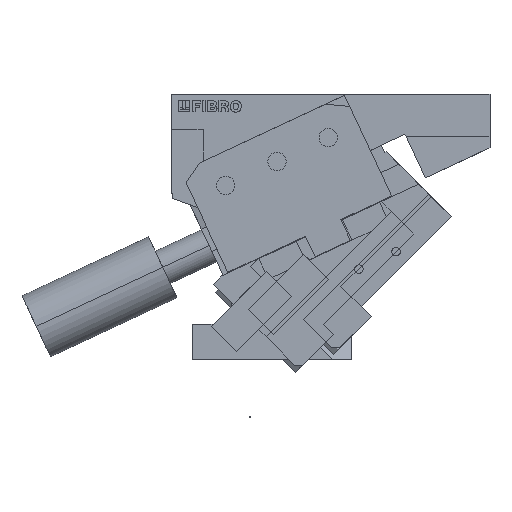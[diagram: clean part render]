
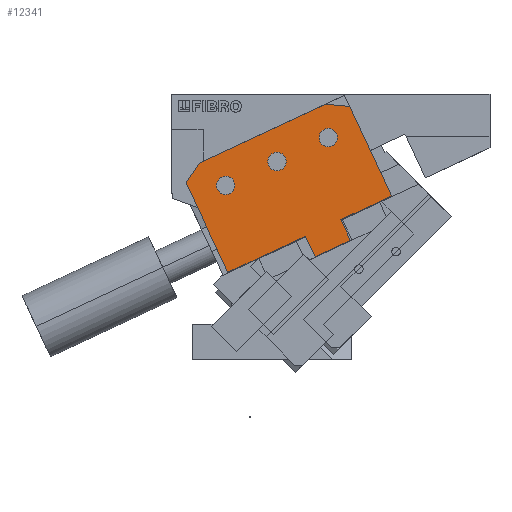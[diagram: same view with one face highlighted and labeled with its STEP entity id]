
A CAD part, front view. The second image highlights one B-rep face of the part: STEP entity #12341.
In plain terms, the highlighted planar face has unit normal (0, -1, 0).
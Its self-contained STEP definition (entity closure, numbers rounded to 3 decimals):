
#12170=AXIS2_PLACEMENT_3D('Circle Axis2P3D',#12168,#12169,$) ;
#12194=AXIS2_PLACEMENT_3D('Circle Axis2P3D',#12192,#12193,$) ;
#12217=AXIS2_PLACEMENT_3D('Plane Axis2P3D',#12214,#12215,#12216) ;
#12303=AXIS2_PLACEMENT_3D('Circle Axis2P3D',#12301,#12302,$) ;
#12312=AXIS2_PLACEMENT_3D('Circle Axis2P3D',#12310,#12311,$) ;
#12325=AXIS2_PLACEMENT_3D('Circle Axis2P3D',#12323,#12324,$) ;
#12334=AXIS2_PLACEMENT_3D('Circle Axis2P3D',#12332,#12333,$) ;
#12165=CARTESIAN_POINT('Vertex',(203.496,-231.,319.281)) ;
#12168=CARTESIAN_POINT('Axis2P3D Location',(191.714,-231.,313.787)) ;
#12172=CARTESIAN_POINT('Vertex',(179.932,-231.,308.293)) ;
#12192=CARTESIAN_POINT('Axis2P3D Location',(191.714,-231.,313.787)) ;
#12214=CARTESIAN_POINT('Axis2P3D Location',(280.949,-231.,231.268)) ;
#12219=CARTESIAN_POINT('Line Origine',(99.044,-231.,319.675)) ;
#12223=CARTESIAN_POINT('Vertex',(187.409,-231.,360.88)) ;
#12225=CARTESIAN_POINT('Vertex',(10.679,-231.,278.469)) ;
#12228=CARTESIAN_POINT('Line Origine',(0.744,-231.,264.281)) ;
#12232=CARTESIAN_POINT('Vertex',(-9.191,-231.,250.093)) ;
#12235=CARTESIAN_POINT('Line Origine',(20.325,-231.,186.797)) ;
#12239=CARTESIAN_POINT('Vertex',(49.84,-231.,123.5)) ;
#12242=CARTESIAN_POINT('Line Origine',(104.672,-231.,149.069)) ;
#12246=CARTESIAN_POINT('Vertex',(159.504,-231.,174.637)) ;
#12249=CARTESIAN_POINT('Line Origine',(166.266,-231.,160.136)) ;
#12253=CARTESIAN_POINT('Vertex',(173.027,-231.,145.635)) ;
#12256=CARTESIAN_POINT('Line Origine',(197.951,-231.,157.257)) ;
#12260=CARTESIAN_POINT('Vertex',(222.874,-231.,168.879)) ;
#12263=CARTESIAN_POINT('Line Origine',(216.113,-231.,183.38)) ;
#12267=CARTESIAN_POINT('Vertex',(209.351,-231.,197.881)) ;
#12270=CARTESIAN_POINT('Line Origine',(245.15,-231.,214.575)) ;
#12274=CARTESIAN_POINT('Vertex',(280.949,-231.,231.268)) ;
#12277=CARTESIAN_POINT('Line Origine',(251.433,-231.,294.564)) ;
#12281=CARTESIAN_POINT('Vertex',(221.918,-231.,357.861)) ;
#12284=CARTESIAN_POINT('Line Origine',(204.663,-231.,359.37)) ;
#12301=CARTESIAN_POINT('Axis2P3D Location',(46.705,-231.,246.168)) ;
#12305=CARTESIAN_POINT('Vertex',(34.923,-231.,240.674)) ;
#12307=CARTESIAN_POINT('Vertex',(58.487,-231.,251.662)) ;
#12310=CARTESIAN_POINT('Axis2P3D Location',(46.705,-231.,246.168)) ;
#12323=CARTESIAN_POINT('Axis2P3D Location',(119.21,-231.,279.978)) ;
#12327=CARTESIAN_POINT('Vertex',(130.992,-231.,285.472)) ;
#12329=CARTESIAN_POINT('Vertex',(107.428,-231.,274.484)) ;
#12332=CARTESIAN_POINT('Axis2P3D Location',(119.21,-231.,279.978)) ;
#12169=DIRECTION('Axis2P3D Direction',(0.,1.,0.)) ;
#12193=DIRECTION('Axis2P3D Direction',(0.,1.,0.)) ;
#12215=DIRECTION('Axis2P3D Direction',(-0.,-1.,0.)) ;
#12216=DIRECTION('Axis2P3D XDirection',(-0.423,0.,0.906)) ;
#12220=DIRECTION('Vector Direction',(-0.906,0.,-0.423)) ;
#12229=DIRECTION('Vector Direction',(0.574,0.,0.819)) ;
#12236=DIRECTION('Vector Direction',(-0.423,0.,0.906)) ;
#12243=DIRECTION('Vector Direction',(-0.906,0.,-0.423)) ;
#12250=DIRECTION('Vector Direction',(0.423,0.,-0.906)) ;
#12257=DIRECTION('Vector Direction',(-0.906,0.,-0.423)) ;
#12264=DIRECTION('Vector Direction',(0.423,0.,-0.906)) ;
#12271=DIRECTION('Vector Direction',(-0.906,0.,-0.423)) ;
#12278=DIRECTION('Vector Direction',(-0.423,0.,0.906)) ;
#12285=DIRECTION('Vector Direction',(0.996,0.,-0.087)) ;
#12302=DIRECTION('Axis2P3D Direction',(-0.,-1.,0.)) ;
#12311=DIRECTION('Axis2P3D Direction',(-0.,-1.,0.)) ;
#12324=DIRECTION('Axis2P3D Direction',(-0.,-1.,0.)) ;
#12333=DIRECTION('Axis2P3D Direction',(-0.,-1.,0.)) ;
#12221=VECTOR('Line Direction',#12220,1.) ;
#12230=VECTOR('Line Direction',#12229,1.) ;
#12237=VECTOR('Line Direction',#12236,1.) ;
#12244=VECTOR('Line Direction',#12243,1.) ;
#12251=VECTOR('Line Direction',#12250,1.) ;
#12258=VECTOR('Line Direction',#12257,1.) ;
#12265=VECTOR('Line Direction',#12264,1.) ;
#12272=VECTOR('Line Direction',#12271,1.) ;
#12279=VECTOR('Line Direction',#12278,1.) ;
#12286=VECTOR('Line Direction',#12285,1.) ;
#12290=ORIENTED_EDGE('',*,*,#12227,.T.) ;
#12291=ORIENTED_EDGE('',*,*,#12234,.T.) ;
#12292=ORIENTED_EDGE('',*,*,#12241,.F.) ;
#12293=ORIENTED_EDGE('',*,*,#12248,.F.) ;
#12294=ORIENTED_EDGE('',*,*,#12255,.F.) ;
#12295=ORIENTED_EDGE('',*,*,#12262,.F.) ;
#12296=ORIENTED_EDGE('',*,*,#12269,.T.) ;
#12297=ORIENTED_EDGE('',*,*,#12276,.F.) ;
#12298=ORIENTED_EDGE('',*,*,#12283,.T.) ;
#12299=ORIENTED_EDGE('',*,*,#12288,.T.) ;
#12316=ORIENTED_EDGE('',*,*,#12309,.T.) ;
#12317=ORIENTED_EDGE('',*,*,#12314,.T.) ;
#12320=ORIENTED_EDGE('',*,*,#12174,.T.) ;
#12321=ORIENTED_EDGE('',*,*,#12196,.T.) ;
#12338=ORIENTED_EDGE('',*,*,#12331,.T.) ;
#12339=ORIENTED_EDGE('',*,*,#12336,.T.) ;
#12318=FACE_BOUND('',#12315,.T.) ;
#12322=FACE_BOUND('',#12319,.T.) ;
#12340=FACE_BOUND('',#12337,.T.) ;
#12341=ADVANCED_FACE('mounting clearance',(#12300,#12318,#12322,#12340),#12218,.T.) ;
#12171=CIRCLE('generated circle',#12170,13.) ;
#12195=CIRCLE('generated circle',#12194,13.) ;
#12304=CIRCLE('generated circle',#12303,13.) ;
#12313=CIRCLE('generated circle',#12312,13.) ;
#12326=CIRCLE('generated circle',#12325,13.) ;
#12335=CIRCLE('generated circle',#12334,13.) ;
#12174=EDGE_CURVE('',#12173,#12166,#12171,.T.) ;
#12196=EDGE_CURVE('',#12166,#12173,#12195,.T.) ;
#12227=EDGE_CURVE('',#12224,#12226,#12222,.T.) ;
#12234=EDGE_CURVE('',#12226,#12233,#12231,.F.) ;
#12241=EDGE_CURVE('',#12240,#12233,#12238,.T.) ;
#12248=EDGE_CURVE('',#12247,#12240,#12245,.T.) ;
#12255=EDGE_CURVE('',#12254,#12247,#12252,.F.) ;
#12262=EDGE_CURVE('',#12261,#12254,#12259,.T.) ;
#12269=EDGE_CURVE('',#12261,#12268,#12266,.F.) ;
#12276=EDGE_CURVE('',#12275,#12268,#12273,.T.) ;
#12283=EDGE_CURVE('',#12275,#12282,#12280,.T.) ;
#12288=EDGE_CURVE('',#12282,#12224,#12287,.F.) ;
#12309=EDGE_CURVE('',#12306,#12308,#12304,.F.) ;
#12314=EDGE_CURVE('',#12308,#12306,#12313,.F.) ;
#12331=EDGE_CURVE('',#12328,#12330,#12326,.F.) ;
#12336=EDGE_CURVE('',#12330,#12328,#12335,.F.) ;
#12289=EDGE_LOOP('',(#12290,#12291,#12292,#12293,#12294,#12295,#12296,#12297,#12298,#12299)) ;
#12315=EDGE_LOOP('',(#12316,#12317)) ;
#12319=EDGE_LOOP('',(#12320,#12321)) ;
#12337=EDGE_LOOP('',(#12338,#12339)) ;
#12300=FACE_OUTER_BOUND('',#12289,.T.) ;
#12222=LINE('Line',#12219,#12221) ;
#12231=LINE('Line',#12228,#12230) ;
#12238=LINE('Line',#12235,#12237) ;
#12245=LINE('Line',#12242,#12244) ;
#12252=LINE('Line',#12249,#12251) ;
#12259=LINE('Line',#12256,#12258) ;
#12266=LINE('Line',#12263,#12265) ;
#12273=LINE('Line',#12270,#12272) ;
#12280=LINE('Line',#12277,#12279) ;
#12287=LINE('Line',#12284,#12286) ;
#12218=PLANE('',#12217) ;
#12166=VERTEX_POINT('',#12165) ;
#12173=VERTEX_POINT('',#12172) ;
#12224=VERTEX_POINT('',#12223) ;
#12226=VERTEX_POINT('',#12225) ;
#12233=VERTEX_POINT('',#12232) ;
#12240=VERTEX_POINT('',#12239) ;
#12247=VERTEX_POINT('',#12246) ;
#12254=VERTEX_POINT('',#12253) ;
#12261=VERTEX_POINT('',#12260) ;
#12268=VERTEX_POINT('',#12267) ;
#12275=VERTEX_POINT('',#12274) ;
#12282=VERTEX_POINT('',#12281) ;
#12306=VERTEX_POINT('',#12305) ;
#12308=VERTEX_POINT('',#12307) ;
#12328=VERTEX_POINT('',#12327) ;
#12330=VERTEX_POINT('',#12329) ;
